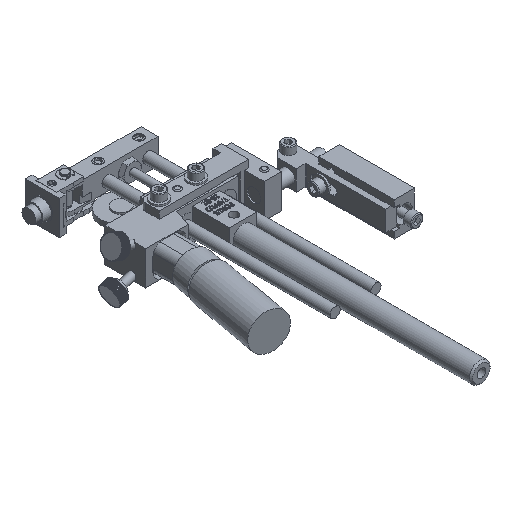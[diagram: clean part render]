
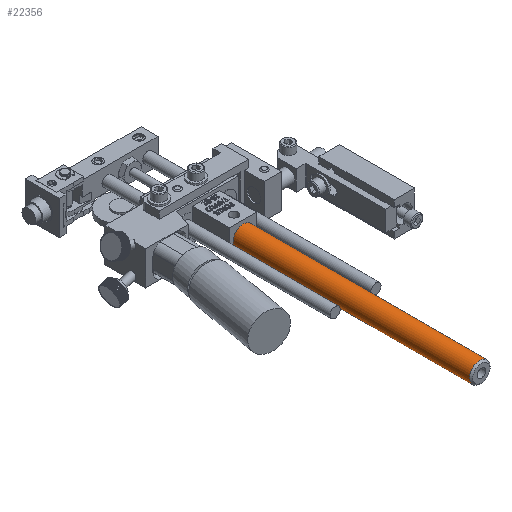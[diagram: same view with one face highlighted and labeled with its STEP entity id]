
A CAD part, isometric view. The second image highlights one B-rep face of the part: STEP entity #22356.
In plain terms, the highlighted cylindrical face has radius 4.763 mm (diameter 9.525 mm), a full revolution.
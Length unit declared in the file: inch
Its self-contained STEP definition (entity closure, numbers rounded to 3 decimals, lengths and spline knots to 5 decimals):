
#22325=CARTESIAN_POINT('',(0.44663,-6.66833,-0.04751));
#22326=VERTEX_POINT('',#22325);
#22327=CARTESIAN_POINT('',(0.44663,-6.66833,-0.23501));
#22328=DIRECTION('',(0.0,-1.0,0.0));
#22329=DIRECTION('',(0.0,0.0,-1.0));
#22330=AXIS2_PLACEMENT_3D('',#22327,#22328,#22329);
#22331=CIRCLE('',#22330,0.1875);
#22332=EDGE_CURVE('',#22326,#22326,#22331,.T.);
#22337=CARTESIAN_POINT('',(0.44663,-2.32333,-0.23501));
#22338=DIRECTION('',(0.,-1.0,0.));
#22339=DIRECTION('',(0.0,0.0,-1.0));
#22340=AXIS2_PLACEMENT_3D('',#22337,#22338,#22339);
#22341=CYLINDRICAL_SURFACE('',#22340,0.1875);
#22342=CARTESIAN_POINT('',(0.44663,-2.32333,-0.04751));
#22343=VERTEX_POINT('',#22342);
#22344=CARTESIAN_POINT('',(0.44663,-2.32333,-0.23501));
#22345=DIRECTION('',(0.0,1.0,0.0));
#22346=DIRECTION('',(0.0,0.0,-1.0));
#22347=AXIS2_PLACEMENT_3D('',#22344,#22345,#22346);
#22348=CIRCLE('',#22347,0.1875);
#22349=EDGE_CURVE('',#22343,#22343,#22348,.T.);
#22350=ORIENTED_EDGE('',*,*,#22349,.F.);
#22351=EDGE_LOOP('',(#22350));
#22352=FACE_OUTER_BOUND('',#22351,.T.);
#22353=ORIENTED_EDGE('',*,*,#22332,.F.);
#22354=EDGE_LOOP('',(#22353));
#22355=FACE_BOUND('',#22354,.T.);
#22356=ADVANCED_FACE('',(#22352,#22355),#22341,.T.);
